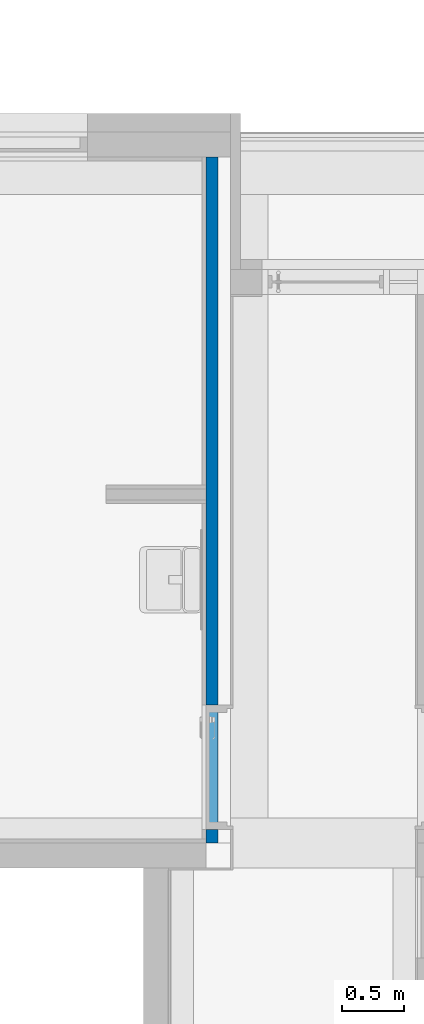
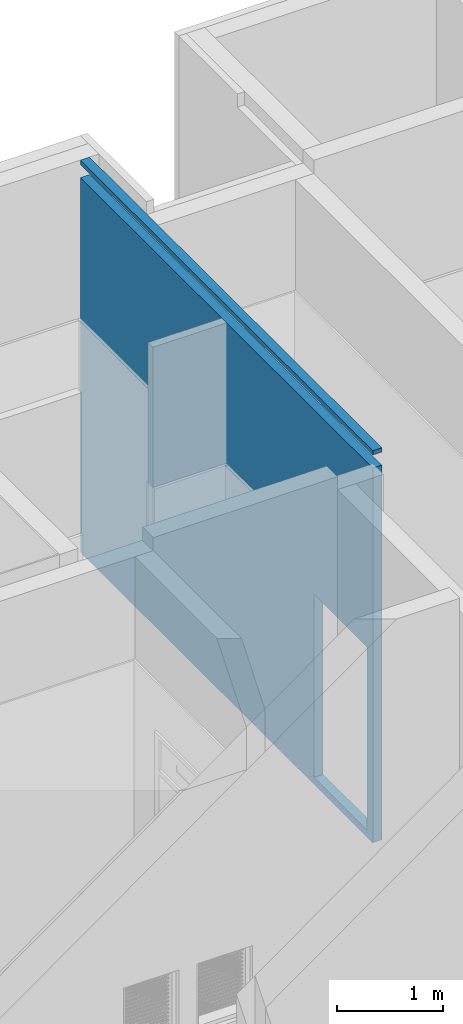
# One storey, part 58 of 74: 1 wall, 2 openings.
"""IFC2X3 building model written with IfcOpenShell, lengths in millimetres."""

from ifc_helpers import new_model, entity, si_unit, converted_unit, derived_unit, direction, frame, frame_2d, origin, place, context, subcontext, project, spatial, polyline, rectangle, extrude, clip, bounded_halfspace, material, layer, layer_set, layer_usage, type_object, element, save


model = new_model("IFC2X3")

# Units and contexts
model_context = context("Model", 3, precision=0.01, world=origin(), true_north=direction((6.123031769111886e-17, 1.0)))
body_context = subcontext(model_context, "Body", "Model", "MODEL_VIEW")
ifc_project = project(units=[si_unit("LENGTHUNIT", "METRE", prefix="MILLI"), si_unit("AREAUNIT", "SQUARE_METRE"), si_unit("VOLUMEUNIT", "CUBIC_METRE"), converted_unit("PLANEANGLEUNIT", "DEGREE", entity("IfcRatioMeasure", 0.017453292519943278), si_unit("PLANEANGLEUNIT", "RADIAN"), dimensions=[0, 0, 0, 0, 0, 0, 0]), si_unit("MASSUNIT", "GRAM", prefix="KILO"), derived_unit("MASSDENSITYUNIT", [(si_unit("MASSUNIT", "GRAM", prefix="KILO"), 1), (si_unit("LENGTHUNIT", "METRE"), -3)]), derived_unit("MOMENTOFINERTIAUNIT", [(si_unit("LENGTHUNIT", "METRE"), 4)]), si_unit("TIMEUNIT", "SECOND"), si_unit("FREQUENCYUNIT", "HERTZ"), si_unit("THERMODYNAMICTEMPERATUREUNIT", "DEGREE_CELSIUS"), derived_unit("THERMALTRANSMITTANCEUNIT", [(si_unit("MASSUNIT", "GRAM", prefix="KILO"), 1), (si_unit("THERMODYNAMICTEMPERATUREUNIT", "KELVIN"), -1), (si_unit("TIMEUNIT", "SECOND"), -3)]), derived_unit("VOLUMETRICFLOWRATEUNIT", [(si_unit("LENGTHUNIT", "METRE"), 3), (si_unit("TIMEUNIT", "SECOND"), -1)]), derived_unit("MASSFLOWRATEUNIT", [(si_unit("MASSUNIT", "GRAM", prefix="KILO"), 1), (si_unit("TIMEUNIT", "SECOND"), -1)]), derived_unit("ROTATIONALFREQUENCYUNIT", [(si_unit("TIMEUNIT", "SECOND"), -1)]), si_unit("ELECTRICCURRENTUNIT", "AMPERE"), si_unit("ELECTRICVOLTAGEUNIT", "VOLT"), si_unit("POWERUNIT", "WATT"), si_unit("FORCEUNIT", "NEWTON", prefix="KILO"), si_unit("ILLUMINANCEUNIT", "LUX"), si_unit("LUMINOUSFLUXUNIT", "LUMEN"), si_unit("LUMINOUSINTENSITYUNIT", "CANDELA"), derived_unit("USERDEFINED", [(si_unit("MASSUNIT", "GRAM", prefix="KILO"), -1), (si_unit("LENGTHUNIT", "METRE"), -2), (si_unit("TIMEUNIT", "SECOND"), 3), (si_unit("LUMINOUSFLUXUNIT", "LUMEN"), 1)]), derived_unit("SOUNDPOWERUNIT", [(si_unit("MASSUNIT", "GRAM", prefix="KILO"), 1), (si_unit("LENGTHUNIT", "METRE"), 2), (si_unit("TIMEUNIT", "SECOND"), -3)]), derived_unit("SOUNDPRESSUREUNIT", [(si_unit("MASSUNIT", "GRAM", prefix="KILO"), 1), (si_unit("LENGTHUNIT", "METRE"), -1), (si_unit("TIMEUNIT", "SECOND"), -2)]), derived_unit("LINEARVELOCITYUNIT", [(si_unit("LENGTHUNIT", "METRE"), 1), (si_unit("TIMEUNIT", "SECOND"), -1)]), si_unit("PRESSUREUNIT", "PASCAL"), derived_unit("USERDEFINED", [(si_unit("LENGTHUNIT", "METRE"), -2), (si_unit("MASSUNIT", "GRAM", prefix="KILO"), 1), (si_unit("TIMEUNIT", "SECOND"), -2)]), derived_unit("LINEARFORCEUNIT", [(si_unit("MASSUNIT", "GRAM", prefix="KILO"), 1), (si_unit("LENGTHUNIT", "METRE"), 1), (si_unit("TIMEUNIT", "SECOND"), -2), (si_unit("LENGTHUNIT", "METRE"), -1)]), derived_unit("PLANARFORCEUNIT", [(si_unit("MASSUNIT", "GRAM", prefix="KILO"), 1), (si_unit("LENGTHUNIT", "METRE"), 1), (si_unit("TIMEUNIT", "SECOND"), -2), (si_unit("LENGTHUNIT", "METRE"), -2)])], contexts=[model_context])

# Site, building, storey
site_placement = place(None, frame((-14167.972527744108, -657.2125860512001, 0.0)))
site = spatial("IfcSite", under=ifc_project, at=site_placement, Name="Default", CompositionType="ELEMENT")
building_placement = place(site_placement, origin())
building = spatial("IfcBuilding", under=site, at=building_placement, Name="Sample Building", CompositionType="ELEMENT")
storey_placement = place(building_placement, frame((0.0, 0.0, 4800.0)))
storey = spatial("IfcBuildingStorey", under=building, at=storey_placement, Name="지상 2층", CompositionType="ELEMENT", Elevation=4800.000000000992)

# Wall, openings
ifc_material = material(Name="KBIMS-콘크리트")
ifc_layer = layer(ifc_material, 200.0)
ifc_layer_set = layer_set([ifc_layer], Name="기본 벽:WA111-철근콘크리트구조 벽 200mm_CW1")
ifc_layer_usage = layer_usage(ifc_layer_set, "AXIS2", "NEGATIVE", 100.0)
wall_type = type_object("IfcWallType", Name="기본 벽:WA111-철근콘크리트구조 벽 200mm_CW1", PredefinedType="STANDARD", material=ifc_layer_set)
wall_placement = place(storey_placement, frame((36367.963798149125, 27957.212307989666, -1.9340006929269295e-09), z_axis=(0.0, 0.0, 1.0), x_axis=(0.0, -1.0, 0.0)))
wall = element("IfcWallStandardCase", 1, at=wall_placement, inside=storey, type_object=wall_type, material=ifc_layer_usage, Name="기본 벽:WA111-철근콘크리트구조 벽 200mm_CW1", ObjectType="기본 벽:WA111-철근콘크리트구조 벽 200mm_CW1", context=body_context, shape_type="Clipping", body=[
    clip(clip(clip(extrude(rectangle(XDim=5699.999996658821, YDim=200.00000000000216, at=frame_2d((2849.9999983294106, -8.739675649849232e-13), x_axis=(-1.0, 0.0))), origin(), (0.0, 0.0, 1.0), 4500.000000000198), bounded_halfspace(frame((5500.0, -100.0, 4350.0), z_axis=(0.0, 0.0, -1.0), x_axis=(0.0, 1.0, 0.0)), True, frame((5500.0, -100.0, 4350.0), z_axis=(0.0, 0.0, -1.0), x_axis=(0.0, 1.0, 0.0)), polyline([(0.0, 7.402542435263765e-08), (30482.64962199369, 7.401613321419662e-08), (30482.64962199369, -1676400.0), (60960.0, -1676400.0), (60960.0, -1615440.0350231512), (60960.0, -1402079.9950653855), (60960.0, -1341119.9950653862), (60960.0, -60959.93968738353), (60960.0, 60960.0), (1.3167664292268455e-09, 60960.0), (0.0, 7.402542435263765e-08)]))), bounded_halfspace(frame((5500.0, 0.008692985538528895, 4500.0), z_axis=(-1.0, 0.0, 0.0), x_axis=(0.0, 0.0, 1.0)), True, frame((5500.0, 0.008692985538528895, 4500.0), z_axis=(-1.0, 0.0, 0.0), x_axis=(0.0, 0.0, 1.0)), polyline([(0.0, 0.0), (-15240.0, 0.0), (-15240.0, -30482.64962199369), (0.0, -30482.64962199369), (0.0, 0.0)]))), bounded_halfspace(frame((0.0, 0.0086929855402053, 4500.0), z_axis=(0.0, -1.0, 0.0), x_axis=(0.0, 0.0, 1.0)), True, frame((0.0, 0.0086929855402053, 4500.0), z_axis=(0.0, -1.0, 0.0), x_axis=(0.0, 0.0, 1.0)), polyline([(0.0, 0.0), (-15240.0, 0.0), (-15240.0, -1676400.0), (0.0, -1676400.0), (0.0, 0.0)]))),
])
opening_1_placement = place(storey_placement, frame((36367.963798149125, 27957.212307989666, -1.9340006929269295e-09), z_axis=(0.0, 0.0, 1.0), x_axis=(0.0, -1.0, 0.0)))
element("IfcOpeningElement", 2, at=opening_1_placement, cuts=wall, Name="기본 벽:WA111-철근콘크리트구조 벽 200mm_CW1:1", ObjectType="Opening", context=body_context, shape_type="SweptSolid", body=[
    extrude(rectangle(XDim=5499.999996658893, YDim=100.0086929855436, at=frame_2d((1.3271517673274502e-05, -16.668115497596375), x_axis=(1.0, 0.0))), frame((2750.000011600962, -66.66376900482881, 4300.0), z_axis=(0.0, 0.0, 1.0), x_axis=(-1.0, 0.0, 0.0)), (0.0, 0.0, 1.0), 150.00000000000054),
])
opening_2_placement = place(wall_placement, frame((5393.539489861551, 100.0, 80.0)))
element("IfcOpeningElement", 3, at=opening_2_placement, cuts=wall, Name="DR111-외여닫이문(철재,일반)_유리포함(원형):DR111-외여닫이문(철재, 일반)_유리포함 (원형)_2100x1000:1", ObjectType="Opening", context=body_context, shape_type="SweptSolid", body=[
    extrude(rectangle(XDim=2099.999999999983, YDim=999.9999999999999, at=frame_2d((1049.9999999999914, 500.00000000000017), x_axis=(1.0, 0.0))), frame((0.0, 0.0, 0.0), z_axis=(0.0, -1.0, 0.0), x_axis=(0.0, 0.0, 1.0)), (0.0, 0.0, 1.0), 200.0),
])

save(model, "model.ifc")
